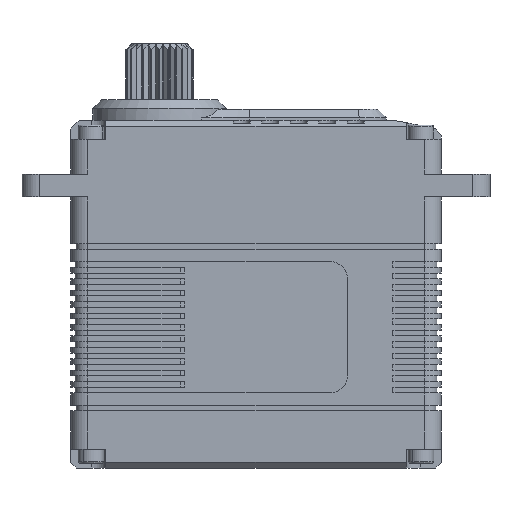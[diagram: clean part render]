
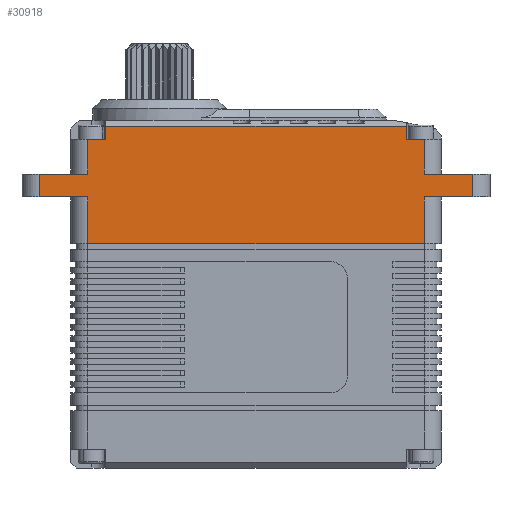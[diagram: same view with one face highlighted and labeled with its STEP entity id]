
A CAD part, front view. The second image highlights one B-rep face of the part: STEP entity #30918.
In plain terms, the highlighted planar face has unit normal (0, -1, 0).
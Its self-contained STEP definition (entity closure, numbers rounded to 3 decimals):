
#333 = VECTOR ( 'NONE', #37059, 1000. ) ;
#497 = LINE ( 'NONE', #31712, #28672 ) ;
#514 = DIRECTION ( 'NONE',  ( 1., 0., 0. ) ) ;
#908 = EDGE_LOOP ( 'NONE', ( #9365, #8020, #31012, #6434, #35699, #20762, #25527, #16739, #37857, #3878, #37402, #28081, #16026, #18124, #7493, #36381 ) ) ;
#1052 = LINE ( 'NONE', #3293, #11279 ) ;
#1150 = VECTOR ( 'NONE', #20065, 1000. ) ;
#1317 = DIRECTION ( 'NONE',  ( -1., 0., 0. ) ) ;
#1353 = VERTEX_POINT ( 'NONE', #31451 ) ;
#1546 = LINE ( 'NONE', #24489, #6640 ) ;
#2131 = DIRECTION ( 'NONE',  ( -1., 0., 0. ) ) ;
#2409 = EDGE_CURVE ( 'NONE', #18090, #32922, #19006, .T. ) ;
#2801 = LINE ( 'NONE', #23146, #32365 ) ;
#2932 = VERTEX_POINT ( 'NONE', #8806 ) ;
#3293 = CARTESIAN_POINT ( 'NONE',  ( 0.277, -5.301, 30.05 ) ) ;
#3878 = ORIENTED_EDGE ( 'NONE', *, *, #8452, .F. ) ;
#4454 = LINE ( 'NONE', #13869, #13239 ) ;
#5030 = EDGE_CURVE ( 'NONE', #17033, #28086, #19878, .T. ) ;
#5916 = VECTOR ( 'NONE', #35367, 1000. ) ;
#6064 = EDGE_CURVE ( 'NONE', #32922, #32032, #4454, .T. ) ;
#6235 = LINE ( 'NONE', #28593, #28820 ) ;
#6434 = ORIENTED_EDGE ( 'NONE', *, *, #2409, .T. ) ;
#6640 = VECTOR ( 'NONE', #9566, 1000. ) ;
#6796 = LINE ( 'NONE', #13522, #19708 ) ;
#7493 = ORIENTED_EDGE ( 'NONE', *, *, #22266, .F. ) ;
#7595 = DIRECTION ( 'NONE',  ( -1., 0., 0. ) ) ;
#8020 = ORIENTED_EDGE ( 'NONE', *, *, #8646, .T. ) ;
#8444 = VECTOR ( 'NONE', #14359, 1000. ) ;
#8452 = EDGE_CURVE ( 'NONE', #23198, #2932, #6235, .T. ) ;
#8646 = EDGE_CURVE ( 'NONE', #10358, #28675, #1052, .T. ) ;
#8806 = CARTESIAN_POINT ( 'NONE',  ( -55.523, -5.301, 30.05 ) ) ;
#9041 = LINE ( 'NONE', #37641, #1150 ) ;
#9365 = ORIENTED_EDGE ( 'NONE', *, *, #24724, .F. ) ;
#9566 = DIRECTION ( 'NONE',  ( 1., 0., 0. ) ) ;
#9667 = CARTESIAN_POINT ( 'NONE',  ( -55.523, -5.301, 27.75 ) ) ;
#9683 = CARTESIAN_POINT ( 'NONE',  ( -58.723, -5.301, 27.75 ) ) ;
#9700 = CARTESIAN_POINT ( 'NONE',  ( -70.223, -5.301, 21.65 ) ) ;
#10171 = VERTEX_POINT ( 'NONE', #21837 ) ;
#10310 = CARTESIAN_POINT ( 'NONE',  ( 0.277, -5.301, 17.65 ) ) ;
#10340 = CARTESIAN_POINT ( 'NONE',  ( -58.723, -5.301, 21.65 ) ) ;
#10354 = CARTESIAN_POINT ( 'NONE',  ( -59.723, -5.301, 30.05 ) ) ;
#10358 = VERTEX_POINT ( 'NONE', #16789 ) ;
#10950 = LINE ( 'NONE', #25076, #28907 ) ;
#11279 = VECTOR ( 'NONE', #23445, 1000. ) ;
#12116 = EDGE_CURVE ( 'NONE', #35294, #37442, #1546, .T. ) ;
#13028 = CARTESIAN_POINT ( 'NONE',  ( 8.777, -5.301, 21.65 ) ) ;
#13239 = VECTOR ( 'NONE', #34545, 1000. ) ;
#13338 = CARTESIAN_POINT ( 'NONE',  ( -59.723, -5.301, 30.05 ) ) ;
#13522 = CARTESIAN_POINT ( 'NONE',  ( 11.777, -5.301, 17.65 ) ) ;
#13570 = EDGE_CURVE ( 'NONE', #1353, #35350, #2801, .T. ) ;
#13832 = CARTESIAN_POINT ( 'NONE',  ( -67.223, -5.301, 21.65 ) ) ;
#13869 = CARTESIAN_POINT ( 'NONE',  ( 11.777, -5.301, 21.65 ) ) ;
#13890 = CARTESIAN_POINT ( 'NONE',  ( 8.777, -5.301, 17.65 ) ) ;
#14359 = DIRECTION ( 'NONE',  ( 0., 0., -1. ) ) ;
#16026 = ORIENTED_EDGE ( 'NONE', *, *, #5030, .F. ) ;
#16278 = DIRECTION ( 'NONE',  ( 0., 1., 0. ) ) ;
#16739 = ORIENTED_EDGE ( 'NONE', *, *, #22765, .F. ) ;
#16789 = CARTESIAN_POINT ( 'NONE',  ( 0.277, -5.301, 9.42 ) ) ;
#17033 = VERTEX_POINT ( 'NONE', #13832 ) ;
#18072 = EDGE_CURVE ( 'NONE', #17033, #28201, #9041, .T. ) ;
#18090 = VERTEX_POINT ( 'NONE', #13890 ) ;
#18124 = ORIENTED_EDGE ( 'NONE', *, *, #18072, .T. ) ;
#18588 = EDGE_CURVE ( 'NONE', #38143, #28086, #35715, .T. ) ;
#19006 = LINE ( 'NONE', #22391, #26411 ) ;
#19114 = VECTOR ( 'NONE', #31552, 1000. ) ;
#19390 = CARTESIAN_POINT ( 'NONE',  ( 0.277, -5.301, 21.65 ) ) ;
#19665 = DIRECTION ( 'NONE',  ( 0., 0., -1. ) ) ;
#19708 = VECTOR ( 'NONE', #7595, 1000. ) ;
#19878 = LINE ( 'NONE', #9700, #32363 ) ;
#20065 = DIRECTION ( 'NONE',  ( 0., 0., -1. ) ) ;
#20762 = ORIENTED_EDGE ( 'NONE', *, *, #37160, .T. ) ;
#20932 = FACE_OUTER_BOUND ( 'NONE', #908, .T. ) ;
#21708 = VECTOR ( 'NONE', #1317, 1000. ) ;
#21837 = CARTESIAN_POINT ( 'NONE',  ( -2.923, -5.301, 30.05 ) ) ;
#21838 = AXIS2_PLACEMENT_3D ( 'NONE', #10354, #16278, #28488 ) ;
#22266 = EDGE_CURVE ( 'NONE', #1353, #28201, #33737, .T. ) ;
#22267 = DIRECTION ( 'NONE',  ( 0., 0., 1. ) ) ;
#22391 = CARTESIAN_POINT ( 'NONE',  ( 8.777, -5.301, 30.05 ) ) ;
#22471 = PLANE ( 'NONE',  #21838 ) ;
#22765 = EDGE_CURVE ( 'NONE', #10171, #35294, #33610, .T. ) ;
#23146 = CARTESIAN_POINT ( 'NONE',  ( -58.723, -5.301, 30.05 ) ) ;
#23198 = VERTEX_POINT ( 'NONE', #9667 ) ;
#23445 = DIRECTION ( 'NONE',  ( 0., 0., 1. ) ) ;
#23723 = LINE ( 'NONE', #13338, #19114 ) ;
#24489 = CARTESIAN_POINT ( 'NONE',  ( -2.923, -5.301, 27.75 ) ) ;
#24724 = EDGE_CURVE ( 'NONE', #10358, #35350, #497, .T. ) ;
#25076 = CARTESIAN_POINT ( 'NONE',  ( 0.277, -5.301, 27.75 ) ) ;
#25387 = CARTESIAN_POINT ( 'NONE',  ( -2.923, -5.301, 30.05 ) ) ;
#25527 = ORIENTED_EDGE ( 'NONE', *, *, #12116, .F. ) ;
#26250 = DIRECTION ( 'NONE',  ( 0., 0., 1. ) ) ;
#26411 = VECTOR ( 'NONE', #28416, 1000. ) ;
#27145 = EDGE_CURVE ( 'NONE', #38143, #23198, #31326, .T. ) ;
#28081 = ORIENTED_EDGE ( 'NONE', *, *, #18588, .T. ) ;
#28086 = VERTEX_POINT ( 'NONE', #10340 ) ;
#28201 = VERTEX_POINT ( 'NONE', #31252 ) ;
#28416 = DIRECTION ( 'NONE',  ( 0., 0., 1. ) ) ;
#28488 = DIRECTION ( 'NONE',  ( 0., 0., 1. ) ) ;
#28593 = CARTESIAN_POINT ( 'NONE',  ( -55.523, -5.301, 27.75 ) ) ;
#28672 = VECTOR ( 'NONE', #2131, 1000. ) ;
#28675 = VERTEX_POINT ( 'NONE', #10310 ) ;
#28808 = CARTESIAN_POINT ( 'NONE',  ( -2.923, -5.301, 27.75 ) ) ;
#28820 = VECTOR ( 'NONE', #26250, 1000. ) ;
#28907 = VECTOR ( 'NONE', #22267, 1000. ) ;
#29332 = CARTESIAN_POINT ( 'NONE',  ( -58.723, -5.301, 9.42 ) ) ;
#30918 = ADVANCED_FACE ( 'NONE', ( #20932 ), #22471, .F. ) ;
#31012 = ORIENTED_EDGE ( 'NONE', *, *, #33054, .F. ) ;
#31252 = CARTESIAN_POINT ( 'NONE',  ( -67.223, -5.301, 17.65 ) ) ;
#31326 = LINE ( 'NONE', #34587, #5916 ) ;
#31451 = CARTESIAN_POINT ( 'NONE',  ( -58.723, -5.301, 17.65 ) ) ;
#31552 = DIRECTION ( 'NONE',  ( 1., 0., 0. ) ) ;
#31712 = CARTESIAN_POINT ( 'NONE',  ( 0.277, -5.301, 9.42 ) ) ;
#32032 = VERTEX_POINT ( 'NONE', #19390 ) ;
#32363 = VECTOR ( 'NONE', #514, 1000. ) ;
#32365 = VECTOR ( 'NONE', #19665, 1000. ) ;
#32922 = VERTEX_POINT ( 'NONE', #13028 ) ;
#33054 = EDGE_CURVE ( 'NONE', #18090, #28675, #6796, .T. ) ;
#33603 = CARTESIAN_POINT ( 'NONE',  ( -61.723, -5.301, 17.65 ) ) ;
#33610 = LINE ( 'NONE', #25387, #333 ) ;
#33737 = LINE ( 'NONE', #33603, #21708 ) ;
#34545 = DIRECTION ( 'NONE',  ( -1., 0., 0. ) ) ;
#34587 = CARTESIAN_POINT ( 'NONE',  ( -60.773, -5.301, 27.75 ) ) ;
#35088 = EDGE_CURVE ( 'NONE', #2932, #10171, #23723, .T. ) ;
#35294 = VERTEX_POINT ( 'NONE', #28808 ) ;
#35350 = VERTEX_POINT ( 'NONE', #29332 ) ;
#35367 = DIRECTION ( 'NONE',  ( 1., 0., 0. ) ) ;
#35443 = CARTESIAN_POINT ( 'NONE',  ( 0.277, -5.301, 27.75 ) ) ;
#35699 = ORIENTED_EDGE ( 'NONE', *, *, #6064, .T. ) ;
#35715 = LINE ( 'NONE', #37600, #8444 ) ;
#36381 = ORIENTED_EDGE ( 'NONE', *, *, #13570, .T. ) ;
#37059 = DIRECTION ( 'NONE',  ( 0., 0., -1. ) ) ;
#37160 = EDGE_CURVE ( 'NONE', #32032, #37442, #10950, .T. ) ;
#37402 = ORIENTED_EDGE ( 'NONE', *, *, #27145, .F. ) ;
#37442 = VERTEX_POINT ( 'NONE', #35443 ) ;
#37600 = CARTESIAN_POINT ( 'NONE',  ( -58.723, -5.301, 30.05 ) ) ;
#37641 = CARTESIAN_POINT ( 'NONE',  ( -67.223, -5.301, 30.05 ) ) ;
#37857 = ORIENTED_EDGE ( 'NONE', *, *, #35088, .F. ) ;
#38143 = VERTEX_POINT ( 'NONE', #9683 ) ;
